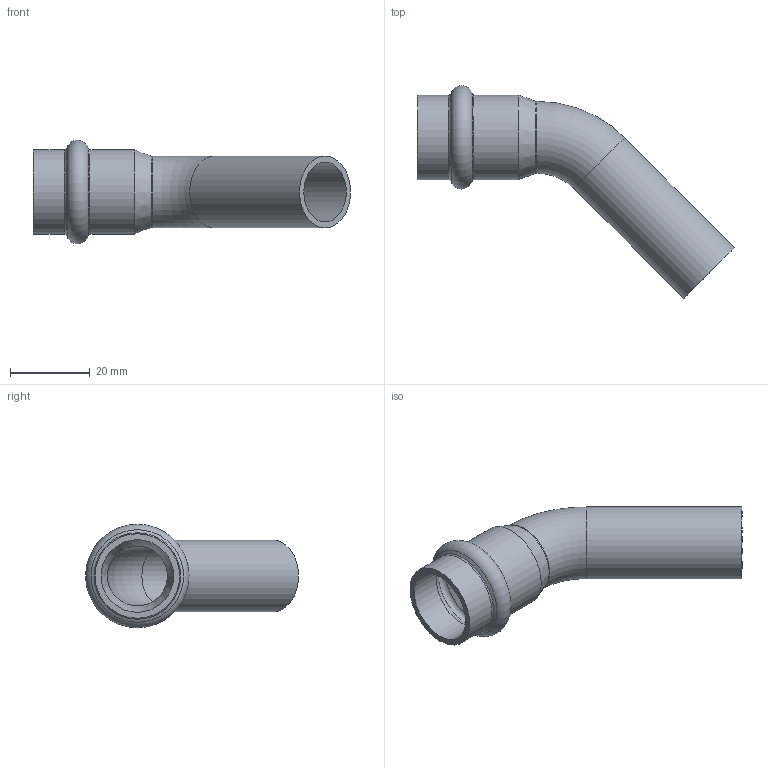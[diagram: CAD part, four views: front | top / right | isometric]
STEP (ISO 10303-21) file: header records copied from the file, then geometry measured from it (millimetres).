
FILE_DESCRIPTION((''),'2;1');
FILE_NAME('G:\Nirosan-Schmiedefeld\Technics\CAD\Bauteile VA\018\6904018(1).stp','2011-09-14T15:14:17',('herberg'),(''),'Autodesk Inventor 2009','Autodesk Inventor 2009','');
FILE_SCHEMA(('AUTOMOTIVE_DESIGN { 1 0 10303 214 1 1 1 1 }'));
Length unit declared in the file: millimetre
Products named in the file (1): 6904018(1)
Bounding box: 79.31 x 53.25 x 25.9 mm (x, y, z)
Volume: 7416.8 mm3; surface area: 10059.1 mm2
Topology: 1 solids, 1 shells, 22 faces, 48 edges, 28 vertices
Faces by surface type: cylinder 8, torus 4, cone 4, bspline 4, plane 2
Full cylindrical faces by diameter (mm): 15 x2, 18 x2, 18.15 x2, 21.15 x2
Entity records: 634 total; most frequent: CARTESIAN_POINT 243, DIRECTION 82, ORIENTED_EDGE 44, EDGE_LOOP 44, AXIS2_PLACEMENT_3D 41, VERTEX_POINT 22, CIRCLE 22, EDGE_CURVE 22
